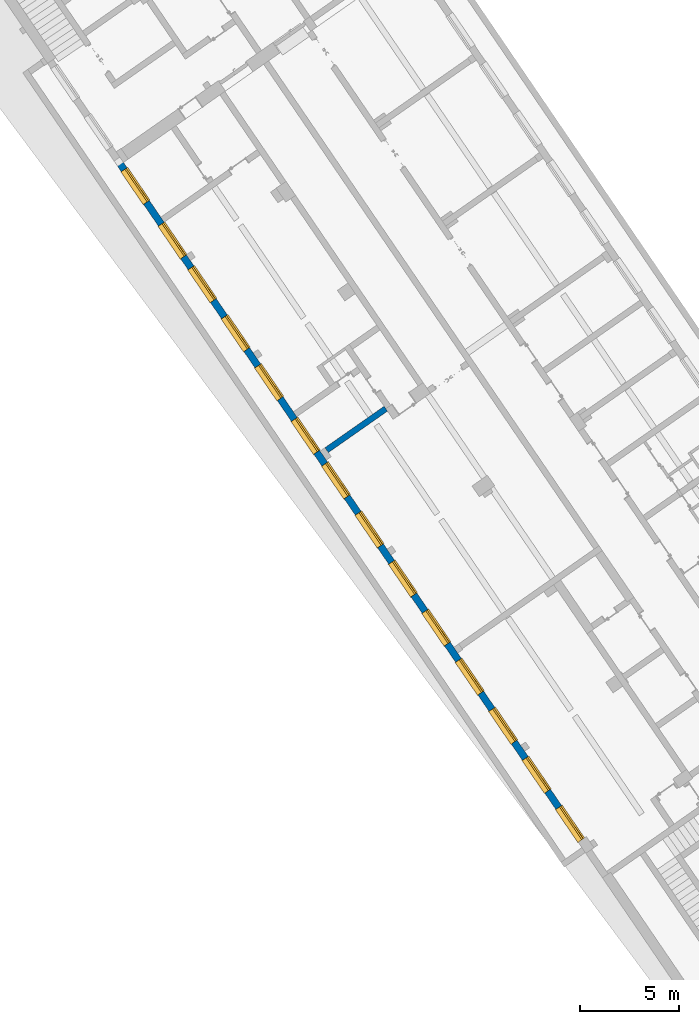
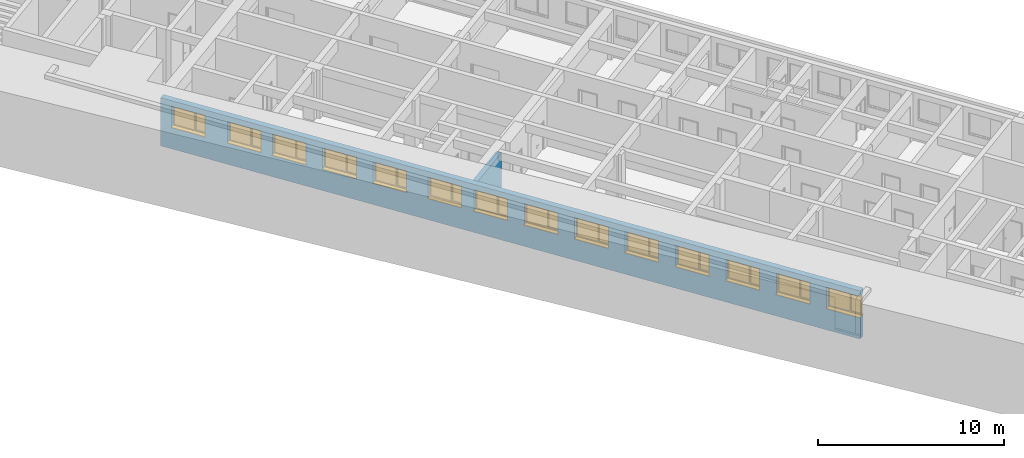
# One storey, part 15 of 112: 14 windows, 2 walls, 14 openings.
"""IFC2X3 building model written with IfcOpenShell, lengths in millimetres."""

from ifc_helpers import new_model, entity, si_unit, converted_unit, derived_unit, direction, frame, frame_2d, origin, place, context, subcontext, project, spatial, polyline, rectangle, outline, extrude, faceted_brep, source, transform, mapped, material, material_list, layer, layer_set, layer_usage, type_object, type_shapes, element, fill, save


model = new_model("IFC2X3")

# Units and contexts
model_context = context("Model", 3, precision=0.01, world=origin(), true_north=direction((6.123031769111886e-17, 1.0)))
body_context = subcontext(model_context, "Body", "Model", "MODEL_VIEW")
ifc_project = project(units=[si_unit("LENGTHUNIT", "METRE", prefix="MILLI"), si_unit("AREAUNIT", "SQUARE_METRE"), si_unit("VOLUMEUNIT", "CUBIC_METRE"), converted_unit("PLANEANGLEUNIT", "DEGREE", entity("IfcRatioMeasure", 0.017453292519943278), si_unit("PLANEANGLEUNIT", "RADIAN"), dimensions=[0, 0, 0, 0, 0, 0, 0]), si_unit("MASSUNIT", "GRAM", prefix="KILO"), derived_unit("MASSDENSITYUNIT", [(si_unit("MASSUNIT", "GRAM", prefix="KILO"), 1), (si_unit("LENGTHUNIT", "METRE"), -3)]), derived_unit("MOMENTOFINERTIAUNIT", [(si_unit("LENGTHUNIT", "METRE"), 4)]), si_unit("TIMEUNIT", "SECOND"), si_unit("FREQUENCYUNIT", "HERTZ"), si_unit("THERMODYNAMICTEMPERATUREUNIT", "DEGREE_CELSIUS"), derived_unit("THERMALTRANSMITTANCEUNIT", [(si_unit("MASSUNIT", "GRAM", prefix="KILO"), 1), (si_unit("THERMODYNAMICTEMPERATUREUNIT", "KELVIN"), -1), (si_unit("TIMEUNIT", "SECOND"), -3)]), derived_unit("THERMALCONDUCTANCEUNIT", [(si_unit("MASSUNIT", "GRAM", prefix="KILO"), 1), (si_unit("LENGTHUNIT", "METRE"), 1), (si_unit("THERMODYNAMICTEMPERATUREUNIT", "KELVIN"), -1), (si_unit("TIMEUNIT", "SECOND"), -3)]), derived_unit("VOLUMETRICFLOWRATEUNIT", [(si_unit("LENGTHUNIT", "METRE"), 3), (si_unit("TIMEUNIT", "SECOND"), -1)]), derived_unit("MASSFLOWRATEUNIT", [(si_unit("MASSUNIT", "GRAM", prefix="KILO"), 1), (si_unit("TIMEUNIT", "SECOND"), -1)]), derived_unit("ROTATIONALFREQUENCYUNIT", [(si_unit("TIMEUNIT", "SECOND"), -1)]), si_unit("ELECTRICCURRENTUNIT", "AMPERE"), si_unit("ELECTRICVOLTAGEUNIT", "VOLT"), si_unit("POWERUNIT", "WATT"), converted_unit("FORCEUNIT", "KIP", entity("IfcRatioMeasure", 2.088543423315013e-05), si_unit("FORCEUNIT", "NEWTON"), dimensions=[1, 1, -2, 0, 0, 0, 0]), si_unit("ILLUMINANCEUNIT", "LUX"), si_unit("LUMINOUSFLUXUNIT", "LUMEN"), si_unit("LUMINOUSINTENSITYUNIT", "CANDELA"), derived_unit("USERDEFINED", [(si_unit("MASSUNIT", "GRAM", prefix="KILO"), -1), (si_unit("LENGTHUNIT", "METRE"), -2), (si_unit("TIMEUNIT", "SECOND"), 3), (si_unit("LUMINOUSFLUXUNIT", "LUMEN"), 1)]), derived_unit("USERDEFINED", [(si_unit("MASSUNIT", "GRAM", prefix="KILO"), 1), (si_unit("LENGTHUNIT", "METRE"), 3), (si_unit("TIMEUNIT", "SECOND"), -3), (si_unit("ELECTRICCURRENTUNIT", "AMPERE"), -2)]), derived_unit("USERDEFINED", [(si_unit("LENGTHUNIT", "METRE"), 2), (si_unit("TIMEUNIT", "SECOND"), -2)]), derived_unit("SOUNDPOWERUNIT", [(si_unit("MASSUNIT", "GRAM", prefix="KILO"), 1), (si_unit("LENGTHUNIT", "METRE"), 2), (si_unit("TIMEUNIT", "SECOND"), -3)]), derived_unit("SOUNDPRESSUREUNIT", [(si_unit("MASSUNIT", "GRAM", prefix="KILO"), 1), (si_unit("LENGTHUNIT", "METRE"), -1), (si_unit("TIMEUNIT", "SECOND"), -2)]), derived_unit("LINEARVELOCITYUNIT", [(si_unit("LENGTHUNIT", "METRE"), 1), (si_unit("TIMEUNIT", "SECOND"), -1)]), si_unit("PRESSUREUNIT", "PASCAL"), derived_unit("USERDEFINED", [(si_unit("LENGTHUNIT", "METRE"), -2), (si_unit("MASSUNIT", "GRAM", prefix="KILO"), 1), (si_unit("TIMEUNIT", "SECOND"), -2)]), derived_unit("LINEARFORCEUNIT", [(si_unit("MASSUNIT", "GRAM", prefix="KILO"), 1), (si_unit("LENGTHUNIT", "METRE"), 1), (si_unit("TIMEUNIT", "SECOND"), -2), (si_unit("LENGTHUNIT", "METRE"), -1)]), derived_unit("PLANARFORCEUNIT", [(si_unit("MASSUNIT", "GRAM", prefix="KILO"), 1), (si_unit("LENGTHUNIT", "METRE"), 1), (si_unit("TIMEUNIT", "SECOND"), -2), (si_unit("LENGTHUNIT", "METRE"), -2)]), derived_unit("SPECIFICHEATCAPACITYUNIT", [(si_unit("LENGTHUNIT", "METRE"), 2), (si_unit("TIMEUNIT", "SECOND"), -2), (si_unit("THERMODYNAMICTEMPERATUREUNIT", "KELVIN"), -1)]), derived_unit("VAPORPERMEABILITYUNIT", [(si_unit("TIMEUNIT", "SECOND"), 1), (si_unit("LENGTHUNIT", "METRE"), -1)]), derived_unit("DYNAMICVISCOSITYUNIT", [(si_unit("MASSUNIT", "GRAM", prefix="KILO"), 1), (si_unit("LENGTHUNIT", "METRE"), -1), (si_unit("TIMEUNIT", "SECOND"), -1)]), derived_unit("THERMALEXPANSIONCOEFFICIENTUNIT", [(si_unit("THERMODYNAMICTEMPERATUREUNIT", "KELVIN"), -1)])], contexts=[model_context])

# Site, building, storey
site_placement = place(None, frame((0.0, 0.0, 0.0), z_axis=(0.0, 0.0, 1.0), x_axis=(0.8191520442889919, 0.5735764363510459, 0.0)))
site = spatial("IfcSite", under=ifc_project, at=site_placement, Name="Default", CompositionType="ELEMENT")
building_placement = place(site_placement, origin())
building = spatial("IfcBuilding", under=site, at=building_placement, CompositionType="ELEMENT")
storey_placement = place(building_placement, frame((0.0, 0.0, -3600.0)))
storey = spatial("IfcBuildingStorey", under=building, at=storey_placement, Name="0.UG -3.60", CompositionType="ELEMENT", Elevation=-3600.0000000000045)

# Wall, openings, windows
ifc_material_1 = material(Name="Analytical Wall Surface_CJC")
ifc_layer_1 = layer(ifc_material_1, 350.0)
ifc_layer_set_1 = layer_set([ifc_layer_1], Name="Basic Wall:Wand_Aussen_35")
ifc_layer_usage_1 = layer_usage(ifc_layer_set_1, "AXIS2", "NEGATIVE", 175.0)
wall_type_1 = type_object("IfcWallType", Name="Basic Wall:Wand_Aussen_35", PredefinedType="STANDARD", material=ifc_layer_set_1)
wall_1_placement = place(storey_placement, frame((-223608.08942719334, 61898.7478588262, 300.0), z_axis=(0.0, 0.0, 1.0), x_axis=(0.012729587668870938, 0.9999189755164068, 0.0)))
wall_1 = element("IfcWallStandardCase", 1, at=wall_1_placement, inside=storey, type_object=wall_type_1, material=ifc_layer_usage_1, Name="Basic Wall:Wand_Aussen_35", ObjectType="Basic Wall:Wand_Aussen_35", context=body_context, shape_type="SweptSolid", body=[
    extrude(rectangle(XDim=41650.98580514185, YDim=350.00000000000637, at=frame_2d((20825.49290257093, -1.9980461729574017e-11), x_axis=(-1.0, 0.0))), origin(), (0.0, 0.0, 1.0), 3150.000000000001),
])
opening_1_placement = place(wall_1_placement, frame((2000.0, 175.0, 1400.0)))
opening_1 = element("IfcOpeningElement", 2, at=opening_1_placement, cuts=wall_1, Name="Windows_Dbl_Plain:200x140:1", ObjectType="Opening", context=body_context, shape_type="SweptSolid", body=[
    extrude(rectangle(XDim=1400.0000000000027, YDim=1999.9999999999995, at=frame_2d((700.0000000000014, 1000.0000000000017), x_axis=(-1.0, 0.0))), frame((0.0, 0.0, 0.0), z_axis=(0.0, -1.0, 0.0), x_axis=(0.0, 0.0, 1.0)), (0.0, 0.0, 1.0), 350.0),
])
opening_2_placement = place(wall_1_placement, frame((5000.243093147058, 175.0, 1400.0)))
opening_2 = element("IfcOpeningElement", 3, at=opening_2_placement, cuts=wall_1, Name="Windows_Dbl_Plain:200x140:1", ObjectType="Opening", context=body_context, shape_type="SweptSolid", body=[
    extrude(rectangle(XDim=1400.0000000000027, YDim=1999.9999999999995, at=frame_2d((700.0000000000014, 1000.0000000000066), x_axis=(-1.0, 0.0))), frame((0.0, 0.0, 0.0), z_axis=(0.0, -1.0, 0.0), x_axis=(0.0, 0.0, 1.0)), (0.0, 0.0, 1.0), 350.0),
])
opening_3_placement = place(wall_1_placement, frame((8000.486186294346, 175.0, 1400.0)))
opening_3 = element("IfcOpeningElement", 4, at=opening_3_placement, cuts=wall_1, Name="Windows_Dbl_Plain:200x140:1", ObjectType="Opening", context=body_context, shape_type="SweptSolid", body=[
    extrude(rectangle(XDim=1400.0000000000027, YDim=1999.9999999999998, at=frame_2d((700.0000000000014, 1000.0000000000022), x_axis=(-1.0, 0.0))), frame((0.0, 0.0, 0.0), z_axis=(0.0, -1.0, 0.0), x_axis=(0.0, 0.0, 1.0)), (0.0, 0.0, 1.0), 350.0),
])
opening_4_placement = place(wall_1_placement, frame((11000.729279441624, 175.0, 1400.0)))
opening_4 = element("IfcOpeningElement", 5, at=opening_4_placement, cuts=wall_1, Name="Windows_Dbl_Plain:200x140:1", ObjectType="Opening", context=body_context, shape_type="SweptSolid", body=[
    extrude(rectangle(XDim=1400.0000000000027, YDim=1999.9999999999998, at=frame_2d((700.0000000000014, 1000.0000000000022), x_axis=(-1.0, 0.0))), frame((0.0, 0.0, 0.0), z_axis=(0.0, -1.0, 0.0), x_axis=(0.0, 0.0, 1.0)), (0.0, 0.0, 1.0), 350.0),
])
opening_5_placement = place(wall_1_placement, frame((14000.972372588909, 175.0, 1400.0)))
opening_5 = element("IfcOpeningElement", 6, at=opening_5_placement, cuts=wall_1, Name="Windows_Dbl_Plain:200x140:1", ObjectType="Opening", context=body_context, shape_type="SweptSolid", body=[
    extrude(rectangle(XDim=1400.0000000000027, YDim=1999.9999999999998, at=frame_2d((700.0000000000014, 1000.0000000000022), x_axis=(-1.0, 0.0))), frame((0.0, 0.0, 0.0), z_axis=(0.0, -1.0, 0.0), x_axis=(0.0, 0.0, 1.0)), (0.0, 0.0, 1.0), 350.0),
])
opening_6_placement = place(wall_1_placement, frame((17001.215465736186, 175.0, 1400.0)))
opening_6 = element("IfcOpeningElement", 7, at=opening_6_placement, cuts=wall_1, Name="Windows_Dbl_Plain:200x140:1", ObjectType="Opening", context=body_context, shape_type="SweptSolid", body=[
    extrude(rectangle(XDim=1400.0000000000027, YDim=1999.9999999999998, at=frame_2d((700.0000000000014, 1000.0000000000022), x_axis=(-1.0, 0.0))), frame((0.0, 0.0, 0.0), z_axis=(0.0, -1.0, 0.0), x_axis=(0.0, 0.0, 1.0)), (0.0, 0.0, 1.0), 350.0),
])
opening_7_placement = place(wall_1_placement, frame((20001.458558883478, 175.0, 1400.0)))
opening_7 = element("IfcOpeningElement", 8, at=opening_7_placement, cuts=wall_1, Name="Windows_Dbl_Plain:200x140:1", ObjectType="Opening", context=body_context, shape_type="SweptSolid", body=[
    extrude(rectangle(XDim=1400.0000000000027, YDim=1999.9999999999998, at=frame_2d((700.0000000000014, 1000.0000000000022), x_axis=(-1.0, 0.0))), frame((0.0, 0.0, 0.0), z_axis=(0.0, -1.0, 0.0), x_axis=(0.0, 0.0, 1.0)), (0.0, 0.0, 1.0), 350.0),
])
opening_8_placement = place(wall_1_placement, frame((23001.701652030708, 175.0, 1400.0)))
opening_8 = element("IfcOpeningElement", 9, at=opening_8_placement, cuts=wall_1, Name="Windows_Dbl_Plain:200x140:1", ObjectType="Opening", context=body_context, shape_type="SweptSolid", body=[
    extrude(rectangle(XDim=1400.0000000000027, YDim=1999.9999999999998, at=frame_2d((700.0000000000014, 1000.0000000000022), x_axis=(-1.0, 0.0))), frame((0.0, 0.0, 0.0), z_axis=(0.0, -1.0, 0.0), x_axis=(0.0, 0.0, 1.0)), (0.0, 0.0, 1.0), 350.0),
])
opening_9_placement = place(wall_1_placement, frame((25728.66594086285, 175.0, 1400.0)))
opening_9 = element("IfcOpeningElement", 10, at=opening_9_placement, cuts=wall_1, Name="Windows_Dbl_Plain:200x140:1", ObjectType="Opening", context=body_context, shape_type="SweptSolid", body=[
    extrude(rectangle(XDim=1400.0000000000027, YDim=1999.9999999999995, at=frame_2d((700.0000000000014, 1000.0000000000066), x_axis=(-1.0, 0.0))), frame((0.0, 0.0, 0.0), z_axis=(0.0, -1.0, 0.0), x_axis=(0.0, 0.0, 1.0)), (0.0, 0.0, 1.0), 350.0),
])
opening_10_placement = place(wall_1_placement, frame((29002.187838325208, 175.0, 1400.0)))
opening_10 = element("IfcOpeningElement", 11, at=opening_10_placement, cuts=wall_1, Name="Windows_Dbl_Plain:200x140:1", ObjectType="Opening", context=body_context, shape_type="SweptSolid", body=[
    extrude(rectangle(XDim=1400.0000000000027, YDim=1999.9999999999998, at=frame_2d((700.0000000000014, 1000.0000000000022), x_axis=(-1.0, 0.0))), frame((0.0, 0.0, 0.0), z_axis=(0.0, -1.0, 0.0), x_axis=(0.0, 0.0, 1.0)), (0.0, 0.0, 1.0), 350.0),
])
opening_11_placement = place(wall_1_placement, frame((32002.43093147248, 175.0, 1400.0)))
opening_11 = element("IfcOpeningElement", 12, at=opening_11_placement, cuts=wall_1, Name="Windows_Dbl_Plain:200x140:1", ObjectType="Opening", context=body_context, shape_type="SweptSolid", body=[
    extrude(rectangle(XDim=1400.0000000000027, YDim=1999.9999999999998, at=frame_2d((700.0000000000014, 1000.0000000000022), x_axis=(-1.0, 0.0))), frame((0.0, 0.0, 0.0), z_axis=(0.0, -1.0, 0.0), x_axis=(0.0, 0.0, 1.0)), (0.0, 0.0, 1.0), 350.0),
])
opening_12_placement = place(wall_1_placement, frame((35002.67402461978, 175.0, 1400.0)))
opening_12 = element("IfcOpeningElement", 13, at=opening_12_placement, cuts=wall_1, Name="Windows_Dbl_Plain:200x140:1", ObjectType="Opening", context=body_context, shape_type="SweptSolid", body=[
    extrude(rectangle(XDim=1400.0000000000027, YDim=1999.9999999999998, at=frame_2d((700.0000000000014, 1000.0000000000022), x_axis=(-1.0, 0.0))), frame((0.0, 0.0, 0.0), z_axis=(0.0, -1.0, 0.0), x_axis=(0.0, 0.0, 1.0)), (0.0, 0.0, 1.0), 350.0),
])
opening_13_placement = place(wall_1_placement, frame((37673.43584836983, 175.0, 1400.0)))
opening_13 = element("IfcOpeningElement", 14, at=opening_13_placement, cuts=wall_1, Name="Windows_Dbl_Plain:200x140:1", ObjectType="Opening", context=body_context, shape_type="SweptSolid", body=[
    extrude(rectangle(XDim=1400.0000000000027, YDim=1999.9999999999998, at=frame_2d((700.0000000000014, 1000.0000000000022), x_axis=(-1.0, 0.0))), frame((0.0, 0.0, 0.0), z_axis=(0.0, -1.0, 0.0), x_axis=(0.0, 0.0, 1.0)), (0.0, 0.0, 1.0), 350.0),
])
opening_14_placement = place(wall_1_placement, frame((41002.998148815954, 175.0, 1400.0)))
opening_14 = element("IfcOpeningElement", 15, at=opening_14_placement, cuts=wall_1, Name="Windows_Dbl_Plain:200x140:1", ObjectType="Opening", context=body_context, shape_type="SweptSolid", body=[
    extrude(rectangle(XDim=1400.0000000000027, YDim=1999.9999999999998, at=frame_2d((700.0000000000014, 999.9999999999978), x_axis=(-1.0, 0.0))), frame((0.0, 0.0, 0.0), z_axis=(0.0, -1.0, 0.0), x_axis=(0.0, 0.0, 1.0)), (0.0, 0.0, 1.0), 350.0),
])
ifc_material_2 = material(Name="Window Frame")
ifc_material_3 = material(Name="Glass")
ifc_material_list = material_list([ifc_material_2, ifc_material_3])
window_style = type_object("IfcWindowStyle", Name="Windows_Dbl_Plain:200x140", ConstructionType="NOTDEFINED", OperationType="DOUBLE_PANEL_VERTICAL", ParameterTakesPrecedence=False, Sizeable=False, material=ifc_material_list)
shared_shape = source(origin(), body_context, "Body", "Brep", [
    faceted_brep([(-25.0, -25.0, 0.0), (-25.0, 0.0, 0.0), (0.0, 0.0, 0.0), (0.0, 217.0, 0.0), (2000.0, 217.0, 0.0), (2000.0, 0.0, 0.0), (2025.0, 0.0, 0.0), (2025.0, -25.0, 0.0), (-25.0, -25.0, 25.0), (2025.0, -25.0, 25.0), (2025.0, 0.0, 25.0), (2000.0, 0.0, 25.0), (2000.0, 217.0, 25.0), (0.0, 217.0, 25.0), (0.0, 0.0, 25.0), (-25.0, 0.0, 25.0)], [[[0, 1, 2, 3, 4, 5, 6, 7]], [[8, 9, 10, 11, 12, 13, 14, 15]], [[1, 0, 8, 15]], [[2, 1, 15, 14]], [[3, 2, 14, 13]], [[4, 3, 13, 12]], [[5, 4, 12, 11]], [[6, 5, 11, 10]], [[7, 6, 10, 9]], [[0, 7, 9, 8]]]),
    faceted_brep([(1345.0, 264.0, 1330.0), (1345.0, 264.0, 93.0), (1930.0, 264.0, 93.0), (1930.0, 264.0, 1330.0), (1345.0, 288.0, 1330.0), (1930.0, 288.0, 1330.0), (1930.0, 288.0, 93.0), (1345.0, 288.0, 93.0)], [[[0, 1, 2, 3]], [[4, 5, 6, 7]], [[1, 0, 4, 7]], [[2, 1, 7, 6]], [[3, 2, 6, 5]], [[0, 3, 5, 4]]]),
    faceted_brep([(1305.0, 259.0, 1360.0), (1305.0, 259.0, 63.0), (40.0, 259.0, 63.0), (40.0, 259.0, 1360.0), (1305.0, 235.0, 1360.0), (40.0, 235.0, 1360.0), (40.0, 235.0, 63.0), (1305.0, 235.0, 63.0)], [[[0, 1, 2, 3]], [[4, 5, 6, 7]], [[1, 0, 4, 7]], [[2, 1, 7, 6]], [[3, 2, 6, 5]], [[0, 3, 5, 4]]]),
    faceted_brep([(1940.0, 217.0, 1340.0), (1940.0, 217.0, 75.0), (1333.0, 217.0, 75.0), (1333.0, 217.0, 1340.0), (1275.0, 217.0, 1340.0), (1275.0, 217.0, 75.0), (60.0, 217.0, 75.0), (60.0, 217.0, 1340.0), (2000.0, 217.0, 1400.0), (0.0, 217.0, 1400.0), (0.0, 217.0, 0.0), (2000.0, 217.0, 0.0), (0.0, 300.0, 1400.0), (0.0, 300.0, 51.0), (0.0, 315.0, 49.687670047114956), (0.0, 315.0, 44.74496761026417), (0.0, 387.50000000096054, 33.80888466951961), (0.0, 387.50000000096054, 0.0), (2000.0, 300.0, 1400.0), (2000.0, 300.0, 51.0), (40.0, 300.0, 1360.0), (40.0, 300.0, 63.0), (1275.0, 300.0, 63.0), (1275.0, 300.0, 1360.0), (1315.0, 300.0, 1360.0), (1315.0, 300.0, 63.0), (1960.0, 300.0, 63.0), (1960.0, 300.0, 1360.0), (40.0, 235.0, 1360.0), (40.0, 235.0, 63.0), (1285.0, 235.0, 1360.0), (1285.0, 235.0, 63.0), (1275.0, 235.0, 1340.0), (60.0, 235.0, 1340.0), (60.0, 235.0, 75.0), (1275.0, 235.0, 75.0), (1275.0, 259.0, 1360.0), (1285.0, 259.0, 1360.0), (2000.0, 387.50000000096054, 0.0), (2000.0, 387.50000000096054, 33.80888466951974), (2000.0, 315.0, 44.744967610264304), (2000.0, 315.0, 49.68767004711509), (1960.0, 235.0, 63.0), (1960.0, 235.0, 1360.0), (1940.0, 235.0, 1340.0), (1940.0, 235.0, 75.0), (1285.0, 259.0, 63.0), (1275.0, 259.0, 63.0), (1315.0, 235.0, 1360.0), (1315.0, 235.0, 63.0), (1333.0, 235.0, 1340.0), (1333.0, 235.0, 75.0)], [[[0, 1, 2, 3], [4, 5, 6, 7], [8, 9, 10, 11]], [[10, 9, 12, 13, 14, 15, 16, 17]], [[13, 12, 18, 19], [20, 21, 22, 23], [24, 25, 26, 27]], [[21, 20, 28, 29]], [[28, 30, 31, 29], [32, 33, 34, 35]], [[33, 7, 6, 34]], [[9, 8, 18, 12]], [[28, 20, 23, 36, 37, 30]], [[7, 33, 32, 4]], [[19, 18, 8, 11, 38, 39, 40, 41]], [[27, 26, 42, 43]], [[0, 44, 45, 1]], [[37, 46, 31, 30]], [[46, 37, 36, 47]], [[47, 36, 23, 22]], [[25, 24, 48, 49]], [[50, 3, 2, 51]], [[4, 32, 35, 5]], [[38, 11, 10, 17]], [[39, 38, 17, 16]], [[40, 39, 16, 15]], [[41, 40, 15, 14]], [[19, 41, 14, 13]], [[26, 25, 49, 42]], [[2, 1, 45, 51]], [[35, 34, 6, 5]], [[22, 21, 29, 31, 46, 47]], [[44, 0, 3, 50]], [[27, 43, 48, 24]], [[48, 43, 42, 49], [44, 50, 51, 45]]], outer=[[False, False, True], [True], [True, False, False], [True], [True, False], [True], [True], [True], [True], [True], [True], [True], [True], [True], [True], [True], [True], [True], [True], [True], [True], [True], [True], [True], [True], [True], [True], [True], [True], [True, False]]),
    faceted_brep([(1305.0, 300.0, 1370.0), (1305.0, 305.77350269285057, 1370.0), (1305.0, 305.77350269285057, 53.0), (1305.0, 300.0, 53.0), (1315.0, 235.0, 1360.0), (1315.0, 300.0, 1360.0), (1315.0, 300.0, 63.0), (1315.0, 235.0, 63.0), (1355.0, 249.49289985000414, 1320.0), (1344.851962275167, 235.0, 1330.148037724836), (1344.851962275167, 235.0, 92.85196227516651), (1355.0, 249.49289985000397, 103.0), (1355.0, 264.0, 1320.0), (1355.0, 264.0, 103.0), (1345.0, 288.0, 1330.0), (1345.0, 264.0, 1330.0), (1345.0, 264.0, 93.0), (1345.0, 288.0, 93.0), (1355.0, 305.77350269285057, 1320.0), (1355.0, 288.0, 1320.0), (1355.0, 288.0, 103.0), (1355.0, 305.77350269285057, 103.0), (1337.5542451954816, 311.5470053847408, 1337.4457548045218), (1337.5542451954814, 311.54700538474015, 85.55424519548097), (1315.7846096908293, 311.547005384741, 1359.215390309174), (1315.7846096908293, 311.54700538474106, 63.78460969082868), (1970.0, 305.7735026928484, 53.0), (1970.0, 300.0, 53.0), (1960.0, 300.0, 63.0), (1960.0, 235.0, 63.0), (1930.1480377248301, 235.0, 92.85196227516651), (1920.0, 249.49289985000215, 103.0), (1920.0, 264.0, 103.0), (1930.0, 264.0, 93.0), (1930.0, 288.0, 93.0), (1920.0, 288.0, 103.0), (1920.0, 305.77350269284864, 103.0), (1937.445754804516, 311.5470053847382, 85.55424519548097), (1959.2153903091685, 311.5470053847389, 63.784609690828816), (1970.0, 305.7735026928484, 1370.0), (1970.0, 300.0, 1370.0), (1960.0, 300.0, 1360.0), (1960.0, 235.0, 1360.0), (1930.1480377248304, 235.0, 1330.148037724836), (1920.0, 249.49289985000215, 1320.0), (1920.0, 264.0, 1320.0), (1930.0, 264.0, 1330.0), (1930.0, 288.0, 1330.0), (1920.0, 288.0, 1320.0), (1920.0, 305.77350269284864, 1320.0), (1937.445754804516, 311.54700538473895, 1337.4457548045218), (1959.2153903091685, 311.5470053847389, 1359.215390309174)], [[[0, 1, 2, 3]], [[4, 5, 6, 7]], [[8, 9, 10, 11]], [[12, 8, 11, 13]], [[14, 15, 16, 17]], [[18, 19, 20, 21]], [[22, 18, 21, 23]], [[1, 24, 25, 2]], [[3, 2, 26, 27]], [[7, 6, 28, 29]], [[11, 10, 30, 31]], [[13, 11, 31, 32]], [[17, 16, 33, 34]], [[21, 20, 35, 36]], [[23, 21, 36, 37]], [[2, 25, 38, 26]], [[27, 26, 39, 40]], [[29, 28, 41, 42]], [[31, 30, 43, 44]], [[32, 31, 44, 45]], [[34, 33, 46, 47]], [[36, 35, 48, 49]], [[37, 36, 49, 50]], [[26, 38, 51, 39]], [[40, 39, 1, 0]], [[3, 27, 40, 0], [5, 41, 28, 6]], [[42, 41, 5, 4]], [[7, 29, 42, 4], [9, 43, 30, 10]], [[44, 43, 9, 8]], [[45, 44, 8, 12]], [[13, 32, 45, 12], [15, 46, 33, 16]], [[47, 46, 15, 14]], [[17, 34, 47, 14], [19, 48, 35, 20]], [[49, 48, 19, 18]], [[50, 49, 18, 22]], [[23, 37, 50, 22], [24, 51, 38, 25]], [[39, 51, 24, 1]]], outer=[[True], [True], [True], [True], [True], [True], [True], [True], [True], [True], [True], [True], [True], [True], [True], [True], [True], [True], [True], [True], [True], [True], [True], [True], [True], [True, False], [True], [True, False], [True], [True], [False, True], [True], [True, False], [True], [True], [False, True], [True]]),
])
type_shapes(window_style, [shared_shape])
window_1_placement = place(opening_1_placement, frame((0.0, 0.0, 0.0), z_axis=(0.0, 0.0, 1.0), x_axis=(-1.0, 0.0, 0.0)))
window_1 = element("IfcWindow", 16, at=window_1_placement, inside=storey, type_object=window_style, material=ifc_material_list, Name="Windows_Dbl_Plain:200x140", ObjectType="Windows_Dbl_Plain:200x140", OverallHeight=1400.0000000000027, OverallWidth=2000.0000000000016, context=body_context, shape_type="MappedRepresentation", body=[
    mapped(shared_shape, transform((0.0, 0.0, 0.0), scale=1.0)),
])
fill(opening_1, window_1)
window_2_placement = place(opening_2_placement, frame((0.0, 0.0, 0.0), z_axis=(0.0, 0.0, 1.0), x_axis=(-1.0, 0.0, 0.0)))
window_2 = element("IfcWindow", 17, at=window_2_placement, inside=storey, type_object=window_style, material=ifc_material_list, Name="Windows_Dbl_Plain:200x140", ObjectType="Windows_Dbl_Plain:200x140", OverallHeight=1400.0000000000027, OverallWidth=2000.000000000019, context=body_context, shape_type="MappedRepresentation", body=[
    mapped(shared_shape, transform((0.0, 0.0, 0.0), scale=1.0)),
])
fill(opening_2, window_2)
window_3_placement = place(opening_3_placement, frame((0.0, 0.0, 0.0), z_axis=(0.0, 0.0, 1.0), x_axis=(-1.0, 0.0, 0.0)))
window_3 = element("IfcWindow", 18, at=window_3_placement, inside=storey, type_object=window_style, material=ifc_material_list, Name="Windows_Dbl_Plain:200x140", ObjectType="Windows_Dbl_Plain:200x140", OverallHeight=1400.0000000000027, OverallWidth=2000.0000000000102, context=body_context, shape_type="MappedRepresentation", body=[
    mapped(shared_shape, transform((0.0, 0.0, 0.0), scale=1.0)),
])
fill(opening_3, window_3)
window_4_placement = place(opening_4_placement, frame((0.0, 0.0, 0.0), z_axis=(0.0, 0.0, 1.0), x_axis=(-1.0, 0.0, 0.0)))
window_4 = element("IfcWindow", 19, at=window_4_placement, inside=storey, type_object=window_style, material=ifc_material_list, Name="Windows_Dbl_Plain:200x140", ObjectType="Windows_Dbl_Plain:200x140", OverallHeight=1400.0000000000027, OverallWidth=2000.0000000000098, context=body_context, shape_type="MappedRepresentation", body=[
    mapped(shared_shape, transform((0.0, 0.0, 0.0), scale=1.0)),
])
fill(opening_4, window_4)
window_5_placement = place(opening_5_placement, frame((0.0, 0.0, 0.0), z_axis=(0.0, 0.0, 1.0), x_axis=(-1.0, 0.0, 0.0)))
window_5 = element("IfcWindow", 20, at=window_5_placement, inside=storey, type_object=window_style, material=ifc_material_list, Name="Windows_Dbl_Plain:200x140", ObjectType="Windows_Dbl_Plain:200x140", OverallHeight=1400.0000000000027, OverallWidth=2000.0000000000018, context=body_context, shape_type="MappedRepresentation", body=[
    mapped(shared_shape, transform((0.0, 0.0, 0.0), scale=1.0)),
])
fill(opening_5, window_5)
window_6_placement = place(opening_6_placement, frame((0.0, 0.0, 0.0), z_axis=(0.0, 0.0, 1.0), x_axis=(-1.0, 0.0, 0.0)))
window_6 = element("IfcWindow", 21, at=window_6_placement, inside=storey, type_object=window_style, material=ifc_material_list, Name="Windows_Dbl_Plain:200x140", ObjectType="Windows_Dbl_Plain:200x140", OverallHeight=1400.0000000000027, OverallWidth=2000.0000000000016, context=body_context, shape_type="MappedRepresentation", body=[
    mapped(shared_shape, transform((0.0, 0.0, 0.0), scale=1.0)),
])
fill(opening_6, window_6)
window_7_placement = place(opening_7_placement, frame((0.0, 0.0, 0.0), z_axis=(0.0, 0.0, 1.0), x_axis=(-1.0, 0.0, 0.0)))
window_7 = element("IfcWindow", 22, at=window_7_placement, inside=storey, type_object=window_style, material=ifc_material_list, Name="Windows_Dbl_Plain:200x140", ObjectType="Windows_Dbl_Plain:200x140", OverallHeight=1400.0000000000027, OverallWidth=2000.0000000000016, context=body_context, shape_type="MappedRepresentation", body=[
    mapped(shared_shape, transform((0.0, 0.0, 0.0), scale=1.0)),
])
fill(opening_7, window_7)
window_8_placement = place(opening_8_placement, frame((0.0, 0.0, 0.0), z_axis=(0.0, 0.0, 1.0), x_axis=(-1.0, 0.0, 0.0)))
window_8 = element("IfcWindow", 23, at=window_8_placement, inside=storey, type_object=window_style, material=ifc_material_list, Name="Windows_Dbl_Plain:200x140", ObjectType="Windows_Dbl_Plain:200x140", OverallHeight=1400.0000000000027, OverallWidth=2000.0000000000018, context=body_context, shape_type="MappedRepresentation", body=[
    mapped(shared_shape, transform((0.0, 0.0, 0.0), scale=1.0)),
])
fill(opening_8, window_8)
window_9_placement = place(opening_9_placement, frame((0.0, 0.0, 0.0), z_axis=(0.0, 0.0, 1.0), x_axis=(-1.0, 0.0, 0.0)))
window_9 = element("IfcWindow", 24, at=window_9_placement, inside=storey, type_object=window_style, material=ifc_material_list, Name="Windows_Dbl_Plain:200x140", ObjectType="Windows_Dbl_Plain:200x140", OverallHeight=1400.0000000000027, OverallWidth=2000.0000000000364, context=body_context, shape_type="MappedRepresentation", body=[
    mapped(shared_shape, transform((0.0, 0.0, 0.0), scale=1.0)),
])
fill(opening_9, window_9)
window_10_placement = place(opening_10_placement, frame((0.0, 0.0, 0.0), z_axis=(0.0, 0.0, 1.0), x_axis=(-1.0, 0.0, 0.0)))
window_10 = element("IfcWindow", 25, at=window_10_placement, inside=storey, type_object=window_style, material=ifc_material_list, Name="Windows_Dbl_Plain:200x140", ObjectType="Windows_Dbl_Plain:200x140", OverallHeight=1400.0000000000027, OverallWidth=2000.0000000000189, context=body_context, shape_type="MappedRepresentation", body=[
    mapped(shared_shape, transform((0.0, 0.0, 0.0), scale=1.0)),
])
fill(opening_10, window_10)
window_11_placement = place(opening_11_placement, frame((0.0, 0.0, 0.0), z_axis=(0.0, 0.0, 1.0), x_axis=(-1.0, 0.0, 0.0)))
window_11 = element("IfcWindow", 26, at=window_11_placement, inside=storey, type_object=window_style, material=ifc_material_list, Name="Windows_Dbl_Plain:200x140", ObjectType="Windows_Dbl_Plain:200x140", OverallHeight=1400.0000000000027, OverallWidth=2000.0000000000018, context=body_context, shape_type="MappedRepresentation", body=[
    mapped(shared_shape, transform((0.0, 0.0, 0.0), scale=1.0)),
])
fill(opening_11, window_11)
window_12_placement = place(opening_12_placement, frame((0.0, 0.0, 0.0), z_axis=(0.0, 0.0, 1.0), x_axis=(-1.0, 0.0, 0.0)))
window_12 = element("IfcWindow", 27, at=window_12_placement, inside=storey, type_object=window_style, material=ifc_material_list, Name="Windows_Dbl_Plain:200x140", ObjectType="Windows_Dbl_Plain:200x140", OverallHeight=1400.0000000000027, OverallWidth=2000.0000000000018, context=body_context, shape_type="MappedRepresentation", body=[
    mapped(shared_shape, transform((0.0, 0.0, 0.0), scale=1.0)),
])
fill(opening_12, window_12)
window_13_placement = place(opening_13_placement, frame((0.0, 0.0, 0.0), z_axis=(0.0, 0.0, 1.0), x_axis=(-1.0, 0.0, 0.0)))
window_13 = element("IfcWindow", 28, at=window_13_placement, inside=storey, type_object=window_style, material=ifc_material_list, Name="Windows_Dbl_Plain:200x140", ObjectType="Windows_Dbl_Plain:200x140", OverallHeight=1400.0000000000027, OverallWidth=2000.0000000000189, context=body_context, shape_type="MappedRepresentation", body=[
    mapped(shared_shape, transform((0.0, 0.0, 0.0), scale=1.0)),
])
fill(opening_13, window_13)
window_14_placement = place(opening_14_placement, frame((0.0, 0.0, 0.0), z_axis=(0.0, 0.0, 1.0), x_axis=(-1.0, 0.0, 0.0)))
window_14 = element("IfcWindow", 29, at=window_14_placement, inside=storey, type_object=window_style, material=ifc_material_list, Name="Windows_Dbl_Plain:200x140", ObjectType="Windows_Dbl_Plain:200x140", OverallHeight=1400.0000000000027, OverallWidth=2000.0000000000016, context=body_context, shape_type="MappedRepresentation", body=[
    mapped(shared_shape, transform((0.0, 0.0, 0.0), scale=1.0)),
])
fill(opening_14, window_14)

# Wall
ifc_layer_2 = layer(ifc_material_1, 300.0)
ifc_layer_set_2 = layer_set([ifc_layer_2], Name="Basic Wall:Wand_Innen_30")
ifc_layer_usage_2 = layer_usage(ifc_layer_set_2, "AXIS2", "POSITIVE", -150.0)
wall_type_2 = type_object("IfcWallType", Name="Basic Wall:Wand_Innen_30", PredefinedType="STANDARD", material=ifc_layer_set_2)
wall_2_placement = place(storey_placement, frame((-219181.4374866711, 85421.3589143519, 300.0), z_axis=(0.0, 0.0, 1.0), x_axis=(-1.0, 0.0, 0.0)))
element("IfcWallStandardCase", 30, at=wall_2_placement, inside=storey, type_object=wall_type_2, material=ifc_layer_usage_2, Name="Basic Wall:Wand_Innen_30", ObjectType="Basic Wall:Wand_Innen_30", context=body_context, shape_type="SweptSolid", body=[
    extrude(outline(polyline([(3652.535776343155, -150.0), (3652.535776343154, 150.0), (3.819185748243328, 150.0), (1.90959287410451, -1.2301326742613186e-09), (0.0, -150.0), (3652.535776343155, -150.0)])), origin(), (0.0, 0.0, 1.0), 2400.0),
])

save(model, "model.ifc")
